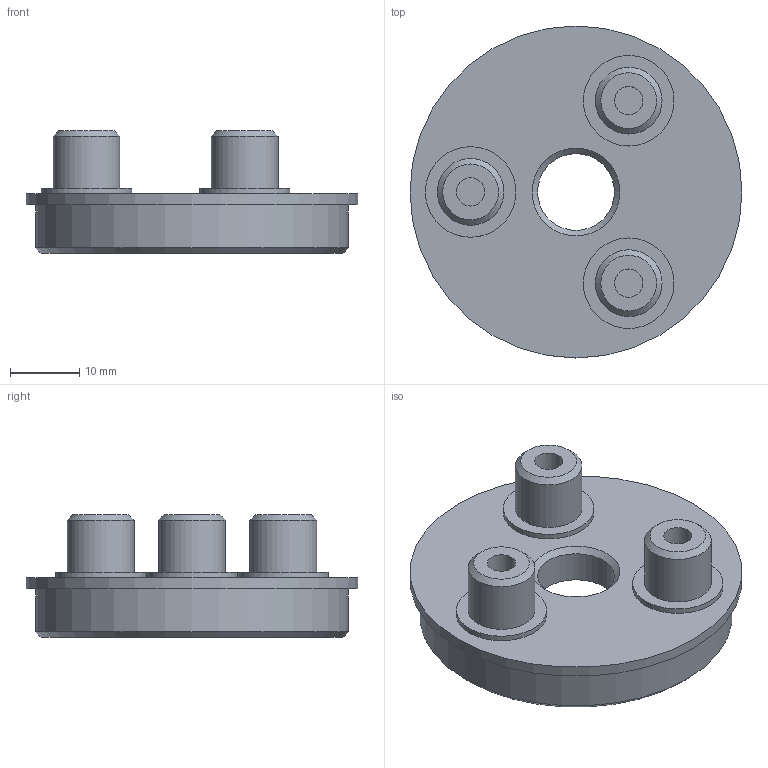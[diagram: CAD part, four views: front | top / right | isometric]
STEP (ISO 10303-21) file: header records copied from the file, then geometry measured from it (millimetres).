
FILE_DESCRIPTION(/* description */ ('STEP AP242 Edition 2','CAx-IF Rec.Pracs.---Representation and Presentation of Product Manufacturing Information (PMI)---4.0---2014-10-13','CAx-IF Rec.Pracs.---3D Tessellated Geometry---0.4---2014-09-14','2;1','CAx-IF Rec.Pracs.---User Defined Attributes---1.5---2016-08-15'),/* implementation_level */ '2;1');
FILE_NAME(/* name */ 'Main - Gear Carrier',/* time_stamp */ '2026-09-22T02:10:48Z',/* author */ (''),/* organization */ (''),/* preprocessor_version */ 'ST-DEVELOPER v20',/* originating_system */ 'ONSHAPE BY PTC INC, 1.221',/* authorisation */ ' ');
FILE_SCHEMA (('AP242_MANAGED_MODEL_BASED_3D_ENGINEERING_MIM_LF { 1 0 10303 442 3 1 4 }'));
Length unit declared in the file: metre
Products named in the file (1): Gear Carrier
Bounding box: 48.01 x 48.01 x 17.72 mm (x, y, z)
Volume: 13498.9 mm3; surface area: 6134.5 mm2
Topology: 1 solids, 1 shells, 36 faces, 60 edges, 39 vertices
Faces by surface type: plane 15, cylinder 15, cone 6
Full cylindrical faces by diameter (mm): 4.064 x2, 4.1 x3, 9.652 x3, 11.113 x1, 13.097 x3, 26.988 x1, 45.254 x1, 48.006 x1
Entity records: 750 total; most frequent: DIRECTION 146, CARTESIAN_POINT 109, AXIS2_PLACEMENT_3D 73, ORIENTED_EDGE 72, EDGE_LOOP 72, FACE_BOUND 72, EDGE_CURVE 36, VERTEX_POINT 36
